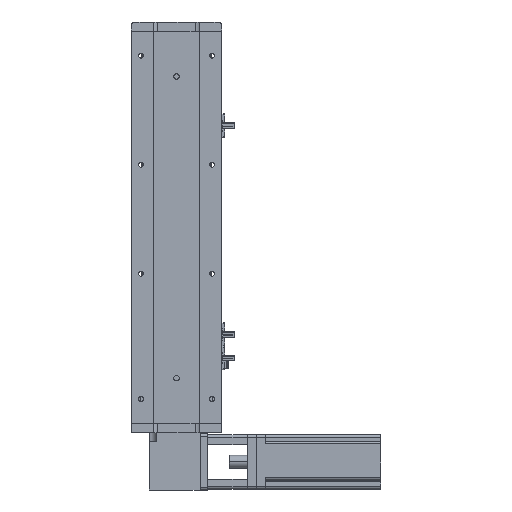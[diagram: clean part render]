
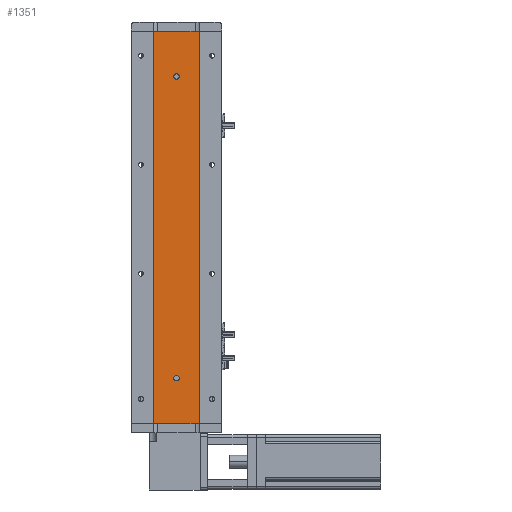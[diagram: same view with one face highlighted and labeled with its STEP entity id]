
A CAD part, left-side view. The second image highlights one B-rep face of the part: STEP entity #1351.
In plain terms, the highlighted planar face has unit normal (-1, 0, 0).
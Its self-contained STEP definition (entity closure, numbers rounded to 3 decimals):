
#538 = CARTESIAN_POINT ( 'NONE',  ( -18.926, 0., 382. ) ) ;
#1351 = ADVANCED_FACE ( 'NONE', ( #26377, #7381, #34324 ), #29727, .F. ) ;
#2083 = VERTEX_POINT ( 'NONE', #23831 ) ;
#3253 = CARTESIAN_POINT ( 'NONE',  ( -18.926, 24.785, 432. ) ) ;
#3418 = EDGE_LOOP ( 'NONE', ( #21728, #38450, #17884, #22973 ) ) ;
#3685 = VERTEX_POINT ( 'NONE', #3767 ) ;
#3767 = CARTESIAN_POINT ( 'NONE',  ( -18.926, -24.785, 432. ) ) ;
#3936 = DIRECTION ( 'NONE',  ( 0., 0., 1. ) ) ;
#4289 = CARTESIAN_POINT ( 'NONE',  ( -18.926, 0., 50. ) ) ;
#4382 = AXIS2_PLACEMENT_3D ( 'NONE', #4289, #27943, #7703 ) ;
#4548 = CARTESIAN_POINT ( 'NONE',  ( -18.926, -24.785, 432. ) ) ;
#4927 = EDGE_CURVE ( 'NONE', #42849, #16830, #19613, .T. ) ;
#5083 = VERTEX_POINT ( 'NONE', #13323 ) ;
#5108 = AXIS2_PLACEMENT_3D ( 'NONE', #538, #24197, #3936 ) ;
#6647 = DIRECTION ( 'NONE',  ( -1., 0., 0. ) ) ;
#6695 = EDGE_CURVE ( 'NONE', #16830, #17517, #12908, .T. ) ;
#6880 = CARTESIAN_POINT ( 'NONE',  ( -18.926, 0., 47. ) ) ;
#7381 = FACE_BOUND ( 'NONE', #39359, .T. ) ;
#7703 = DIRECTION ( 'NONE',  ( 0., 0., 1. ) ) ;
#9135 = DIRECTION ( 'NONE',  ( 0., -1., 0. ) ) ;
#9250 = EDGE_CURVE ( 'NONE', #42849, #3685, #25785, .T. ) ;
#9935 = CARTESIAN_POINT ( 'NONE',  ( -18.926, 0., 382. ) ) ;
#10605 = CIRCLE ( 'NONE', #4382, 3. ) ;
#11199 = ORIENTED_EDGE ( 'NONE', *, *, #17672, .F. ) ;
#11335 = DIRECTION ( 'NONE',  ( 0., 0., -1. ) ) ;
#12264 = EDGE_CURVE ( 'NONE', #2083, #5083, #15625, .T. ) ;
#12797 = VERTEX_POINT ( 'NONE', #16107 ) ;
#12908 = LINE ( 'NONE', #29362, #20900 ) ;
#13128 = CARTESIAN_POINT ( 'NONE',  ( -18.926, 24.785, 432. ) ) ;
#13260 = DIRECTION ( 'NONE',  ( 0., -1., 0. ) ) ;
#13291 = DIRECTION ( 'NONE',  ( 0., 0., 1. ) ) ;
#13323 = CARTESIAN_POINT ( 'NONE',  ( -18.926, 0., 379. ) ) ;
#14534 = DIRECTION ( 'NONE',  ( 1., 0., 0. ) ) ;
#14694 = CARTESIAN_POINT ( 'NONE',  ( -18.926, 24.785, 432. ) ) ;
#15280 = VECTOR ( 'NONE', #11335, 1000. ) ;
#15609 = DIRECTION ( 'NONE',  ( 0., 0., -1. ) ) ;
#15625 = CIRCLE ( 'NONE', #26727, 3. ) ;
#16107 = CARTESIAN_POINT ( 'NONE',  ( -18.926, 0., 53. ) ) ;
#16331 = DIRECTION ( 'NONE',  ( 0., 0., -1. ) ) ;
#16599 = ORIENTED_EDGE ( 'NONE', *, *, #20729, .F. ) ;
#16830 = VERTEX_POINT ( 'NONE', #30817 ) ;
#17517 = VERTEX_POINT ( 'NONE', #26304 ) ;
#17672 = EDGE_CURVE ( 'NONE', #12797, #39876, #37566, .T. ) ;
#17884 = ORIENTED_EDGE ( 'NONE', *, *, #9250, .F. ) ;
#19569 = ORIENTED_EDGE ( 'NONE', *, *, #12264, .F. ) ;
#19613 = LINE ( 'NONE', #39263, #28600 ) ;
#20729 = EDGE_CURVE ( 'NONE', #39876, #12797, #10605, .T. ) ;
#20900 = VECTOR ( 'NONE', #9135, 1000. ) ;
#21728 = ORIENTED_EDGE ( 'NONE', *, *, #6695, .T. ) ;
#22973 = ORIENTED_EDGE ( 'NONE', *, *, #4927, .T. ) ;
#23831 = CARTESIAN_POINT ( 'NONE',  ( -18.926, 0., 385. ) ) ;
#24197 = DIRECTION ( 'NONE',  ( -1., 0., 0. ) ) ;
#25785 = LINE ( 'NONE', #3253, #43803 ) ;
#26304 = CARTESIAN_POINT ( 'NONE',  ( -18.926, -24.785, 0. ) ) ;
#26377 = FACE_BOUND ( 'NONE', #26912, .T. ) ;
#26727 = AXIS2_PLACEMENT_3D ( 'NONE', #9935, #33597, #13291 ) ;
#26890 = CARTESIAN_POINT ( 'NONE',  ( -18.926, 0., 50. ) ) ;
#26912 = EDGE_LOOP ( 'NONE', ( #11199, #16599 ) ) ;
#27943 = DIRECTION ( 'NONE',  ( -1., 0., 0. ) ) ;
#28600 = VECTOR ( 'NONE', #15609, 1000. ) ;
#29362 = CARTESIAN_POINT ( 'NONE',  ( -18.926, 24.785, 0. ) ) ;
#29727 = PLANE ( 'NONE',  #30517 ) ;
#30264 = DIRECTION ( 'NONE',  ( 0., 0., 1. ) ) ;
#30517 = AXIS2_PLACEMENT_3D ( 'NONE', #14694, #14534, #16331 ) ;
#30817 = CARTESIAN_POINT ( 'NONE',  ( -18.926, 24.785, 0. ) ) ;
#31198 = EDGE_CURVE ( 'NONE', #5083, #2083, #40182, .T. ) ;
#33312 = AXIS2_PLACEMENT_3D ( 'NONE', #26890, #6647, #30264 ) ;
#33597 = DIRECTION ( 'NONE',  ( -1., 0., 0. ) ) ;
#34324 = FACE_OUTER_BOUND ( 'NONE', #3418, .T. ) ;
#37566 = CIRCLE ( 'NONE', #33312, 3. ) ;
#38450 = ORIENTED_EDGE ( 'NONE', *, *, #39492, .F. ) ;
#38917 = ORIENTED_EDGE ( 'NONE', *, *, #31198, .F. ) ;
#39263 = CARTESIAN_POINT ( 'NONE',  ( -18.926, 24.785, 432. ) ) ;
#39359 = EDGE_LOOP ( 'NONE', ( #19569, #38917 ) ) ;
#39492 = EDGE_CURVE ( 'NONE', #3685, #17517, #42338, .T. ) ;
#39876 = VERTEX_POINT ( 'NONE', #6880 ) ;
#40182 = CIRCLE ( 'NONE', #5108, 3. ) ;
#42338 = LINE ( 'NONE', #4548, #15280 ) ;
#42849 = VERTEX_POINT ( 'NONE', #13128 ) ;
#43803 = VECTOR ( 'NONE', #13260, 1000. ) ;
